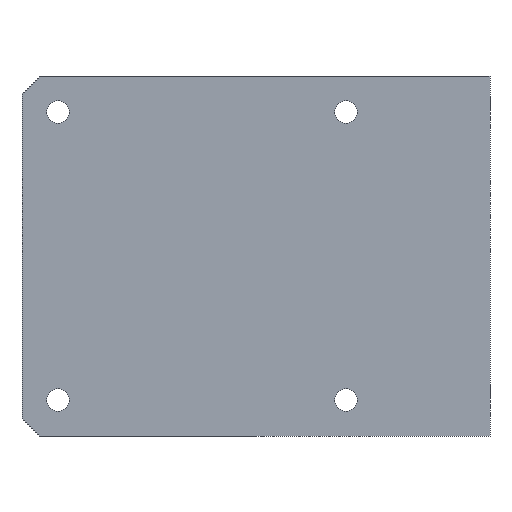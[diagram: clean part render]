
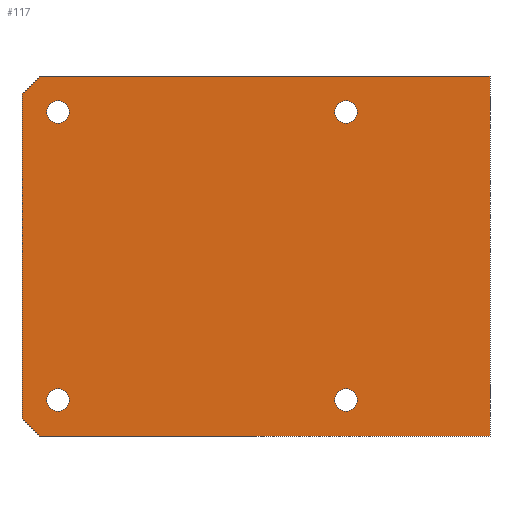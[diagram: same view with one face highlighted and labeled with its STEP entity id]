
A CAD part, left-side view. The second image highlights one B-rep face of the part: STEP entity #117.
In plain terms, the highlighted planar face has unit normal (-1, 0, 0).
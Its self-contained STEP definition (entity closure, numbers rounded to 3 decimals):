
#2 = DIRECTION ( 'NONE',  ( 0., 1., 0. ) ) ;
#17 = AXIS2_PLACEMENT_3D ( 'NONE', #318, #755, #973 ) ;
#25 = CARTESIAN_POINT ( 'NONE',  ( 0., 16., 16. ) ) ;
#33 = AXIS2_PLACEMENT_3D ( 'NONE', #280, #428, #571 ) ;
#36 = CARTESIAN_POINT ( 'NONE',  ( 0., 52., 18. ) ) ;
#39 = DIRECTION ( 'NONE',  ( 1., 0., 0. ) ) ;
#42 = CIRCLE ( 'NONE', #155, 1.25 ) ;
#48 = DIRECTION ( 'NONE',  ( 0., 0., -1. ) ) ;
#60 = VERTEX_POINT ( 'NONE', #297 ) ;
#77 = CARTESIAN_POINT ( 'NONE',  ( 0., 16., 16. ) ) ;
#79 = VERTEX_POINT ( 'NONE', #217 ) ;
#82 = VERTEX_POINT ( 'NONE', #955 ) ;
#109 = EDGE_LOOP ( 'NONE', ( #618, #745 ) ) ;
#113 = CARTESIAN_POINT ( 'NONE',  ( 0., 0., -20. ) ) ;
#117 = ADVANCED_FACE ( 'NONE', ( #564, #433, #161, #652, #226 ), #401, .F. ) ;
#118 = CARTESIAN_POINT ( 'NONE',  ( 0., 52., 18. ) ) ;
#120 = ORIENTED_EDGE ( 'NONE', *, *, #646, .T. ) ;
#131 = ORIENTED_EDGE ( 'NONE', *, *, #699, .T. ) ;
#135 = EDGE_CURVE ( 'NONE', #526, #605, #827, .T. ) ;
#139 = EDGE_LOOP ( 'NONE', ( #634, #535 ) ) ;
#148 = VECTOR ( 'NONE', #676, 1000. ) ;
#149 = EDGE_CURVE ( 'NONE', #60, #580, #612, .T. ) ;
#153 = CARTESIAN_POINT ( 'NONE',  ( 0., 16., -16. ) ) ;
#155 = AXIS2_PLACEMENT_3D ( 'NONE', #25, #924, #182 ) ;
#161 = FACE_BOUND ( 'NONE', #109, .T. ) ;
#166 = ORIENTED_EDGE ( 'NONE', *, *, #314, .T. ) ;
#170 = VERTEX_POINT ( 'NONE', #540 ) ;
#175 = ORIENTED_EDGE ( 'NONE', *, *, #135, .T. ) ;
#178 = CIRCLE ( 'NONE', #545, 1.25 ) ;
#182 = DIRECTION ( 'NONE',  ( 0., 0., -1. ) ) ;
#203 = LINE ( 'NONE', #685, #638 ) ;
#217 = CARTESIAN_POINT ( 'NONE',  ( 0., 50., 20. ) ) ;
#226 = FACE_OUTER_BOUND ( 'NONE', #391, .T. ) ;
#260 = CARTESIAN_POINT ( 'NONE',  ( 0., 16., 17.25 ) ) ;
#265 = DIRECTION ( 'NONE',  ( 1., 0., 0. ) ) ;
#277 = VERTEX_POINT ( 'NONE', #947 ) ;
#280 = CARTESIAN_POINT ( 'NONE',  ( 0., 48., -16. ) ) ;
#292 = CARTESIAN_POINT ( 'NONE',  ( 0., 50., -20. ) ) ;
#294 = VERTEX_POINT ( 'NONE', #740 ) ;
#297 = CARTESIAN_POINT ( 'NONE',  ( 0., 16., 14.75 ) ) ;
#301 = VECTOR ( 'NONE', #520, 1000. ) ;
#314 = EDGE_CURVE ( 'NONE', #277, #294, #812, .T. ) ;
#318 = CARTESIAN_POINT ( 'NONE',  ( 0., 48., 16. ) ) ;
#321 = DIRECTION ( 'NONE',  ( 1., 0., 0. ) ) ;
#322 = DIRECTION ( 'NONE',  ( 0., 0., -1. ) ) ;
#329 = DIRECTION ( 'NONE',  ( 0., 0., -1. ) ) ;
#335 = AXIS2_PLACEMENT_3D ( 'NONE', #153, #532, #329 ) ;
#338 = ORIENTED_EDGE ( 'NONE', *, *, #882, .F. ) ;
#344 = AXIS2_PLACEMENT_3D ( 'NONE', #477, #265, #552 ) ;
#346 = EDGE_CURVE ( 'NONE', #392, #735, #585, .T. ) ;
#366 = LINE ( 'NONE', #600, #148 ) ;
#372 = VECTOR ( 'NONE', #786, 1000. ) ;
#373 = VECTOR ( 'NONE', #513, 1000. ) ;
#380 = CARTESIAN_POINT ( 'NONE',  ( 0., 52., -18. ) ) ;
#391 = EDGE_LOOP ( 'NONE', ( #817, #131, #818, #484, #338, #120 ) ) ;
#392 = VERTEX_POINT ( 'NONE', #36 ) ;
#401 = PLANE ( 'NONE',  #944 ) ;
#428 = DIRECTION ( 'NONE',  ( 1., 0., 0. ) ) ;
#431 = EDGE_LOOP ( 'NONE', ( #887, #175 ) ) ;
#433 = FACE_BOUND ( 'NONE', #139, .T. ) ;
#445 = CARTESIAN_POINT ( 'NONE',  ( 0., 50., -20. ) ) ;
#454 = VERTEX_POINT ( 'NONE', #113 ) ;
#464 = DIRECTION ( 'NONE',  ( 0., -1., 0. ) ) ;
#477 = CARTESIAN_POINT ( 'NONE',  ( 0., 16., -16. ) ) ;
#484 = ORIENTED_EDGE ( 'NONE', *, *, #710, .F. ) ;
#494 = DIRECTION ( 'NONE',  ( 0., -1., 0. ) ) ;
#513 = DIRECTION ( 'NONE',  ( 0., 0., -1. ) ) ;
#520 = DIRECTION ( 'NONE',  ( 0., -0.707, -0.707 ) ) ;
#526 = VERTEX_POINT ( 'NONE', #668 ) ;
#532 = DIRECTION ( 'NONE',  ( 1., 0., 0. ) ) ;
#535 = ORIENTED_EDGE ( 'NONE', *, *, #917, .T. ) ;
#540 = CARTESIAN_POINT ( 'NONE',  ( 0., 16., -17.25 ) ) ;
#542 = VECTOR ( 'NONE', #494, 1000. ) ;
#545 = AXIS2_PLACEMENT_3D ( 'NONE', #805, #39, #48 ) ;
#550 = EDGE_CURVE ( 'NONE', #294, #277, #178, .T. ) ;
#552 = DIRECTION ( 'NONE',  ( 0., 0., -1. ) ) ;
#563 = LINE ( 'NONE', #118, #372 ) ;
#564 = FACE_BOUND ( 'NONE', #595, .T. ) ;
#571 = DIRECTION ( 'NONE',  ( 0., 0., -1. ) ) ;
#580 = VERTEX_POINT ( 'NONE', #260 ) ;
#585 = LINE ( 'NONE', #873, #373 ) ;
#592 = VERTEX_POINT ( 'NONE', #908 ) ;
#595 = EDGE_LOOP ( 'NONE', ( #807, #166 ) ) ;
#600 = CARTESIAN_POINT ( 'NONE',  ( 0., 0., 20. ) ) ;
#605 = VERTEX_POINT ( 'NONE', #759 ) ;
#606 = EDGE_CURVE ( 'NONE', #170, #592, #870, .T. ) ;
#612 = CIRCLE ( 'NONE', #757, 1.25 ) ;
#614 = DIRECTION ( 'NONE',  ( 1., 0., 0. ) ) ;
#615 = AXIS2_PLACEMENT_3D ( 'NONE', #683, #691, #835 ) ;
#618 = ORIENTED_EDGE ( 'NONE', *, *, #606, .T. ) ;
#630 = CARTESIAN_POINT ( 'NONE',  ( 0., 52., 20. ) ) ;
#634 = ORIENTED_EDGE ( 'NONE', *, *, #149, .T. ) ;
#638 = VECTOR ( 'NONE', #464, 1000. ) ;
#646 = EDGE_CURVE ( 'NONE', #79, #392, #563, .T. ) ;
#651 = CARTESIAN_POINT ( 'NONE',  ( 0., 52., -20. ) ) ;
#652 = FACE_BOUND ( 'NONE', #431, .T. ) ;
#656 = EDGE_CURVE ( 'NONE', #694, #454, #729, .T. ) ;
#661 = LINE ( 'NONE', #445, #301 ) ;
#668 = CARTESIAN_POINT ( 'NONE',  ( 0., 48., 17.25 ) ) ;
#676 = DIRECTION ( 'NONE',  ( 0., 0., -1. ) ) ;
#683 = CARTESIAN_POINT ( 'NONE',  ( 0., 48., 16. ) ) ;
#685 = CARTESIAN_POINT ( 'NONE',  ( 0., 52., 20. ) ) ;
#691 = DIRECTION ( 'NONE',  ( 1., 0., 0. ) ) ;
#694 = VERTEX_POINT ( 'NONE', #292 ) ;
#699 = EDGE_CURVE ( 'NONE', #735, #694, #661, .T. ) ;
#710 = EDGE_CURVE ( 'NONE', #82, #454, #366, .T. ) ;
#729 = LINE ( 'NONE', #651, #542 ) ;
#735 = VERTEX_POINT ( 'NONE', #380 ) ;
#738 = EDGE_CURVE ( 'NONE', #592, #170, #791, .T. ) ;
#740 = CARTESIAN_POINT ( 'NONE',  ( 0., 48., -17.25 ) ) ;
#745 = ORIENTED_EDGE ( 'NONE', *, *, #738, .T. ) ;
#749 = EDGE_CURVE ( 'NONE', #605, #526, #823, .T. ) ;
#755 = DIRECTION ( 'NONE',  ( 1., 0., 0. ) ) ;
#757 = AXIS2_PLACEMENT_3D ( 'NONE', #77, #614, #322 ) ;
#759 = CARTESIAN_POINT ( 'NONE',  ( 0., 48., 14.75 ) ) ;
#786 = DIRECTION ( 'NONE',  ( 0., 0.707, -0.707 ) ) ;
#791 = CIRCLE ( 'NONE', #335, 1.25 ) ;
#805 = CARTESIAN_POINT ( 'NONE',  ( 0., 48., -16. ) ) ;
#807 = ORIENTED_EDGE ( 'NONE', *, *, #550, .T. ) ;
#812 = CIRCLE ( 'NONE', #33, 1.25 ) ;
#817 = ORIENTED_EDGE ( 'NONE', *, *, #346, .T. ) ;
#818 = ORIENTED_EDGE ( 'NONE', *, *, #656, .T. ) ;
#823 = CIRCLE ( 'NONE', #615, 1.25 ) ;
#827 = CIRCLE ( 'NONE', #17, 1.25 ) ;
#835 = DIRECTION ( 'NONE',  ( 0., 0., -1. ) ) ;
#870 = CIRCLE ( 'NONE', #344, 1.25 ) ;
#873 = CARTESIAN_POINT ( 'NONE',  ( 0., 52., 20. ) ) ;
#882 = EDGE_CURVE ( 'NONE', #79, #82, #203, .T. ) ;
#887 = ORIENTED_EDGE ( 'NONE', *, *, #749, .T. ) ;
#908 = CARTESIAN_POINT ( 'NONE',  ( 0., 16., -14.75 ) ) ;
#917 = EDGE_CURVE ( 'NONE', #580, #60, #42, .T. ) ;
#924 = DIRECTION ( 'NONE',  ( 1., 0., 0. ) ) ;
#944 = AXIS2_PLACEMENT_3D ( 'NONE', #630, #321, #2 ) ;
#947 = CARTESIAN_POINT ( 'NONE',  ( 0., 48., -14.75 ) ) ;
#955 = CARTESIAN_POINT ( 'NONE',  ( 0., 0., 20. ) ) ;
#973 = DIRECTION ( 'NONE',  ( 0., 0., -1. ) ) ;
